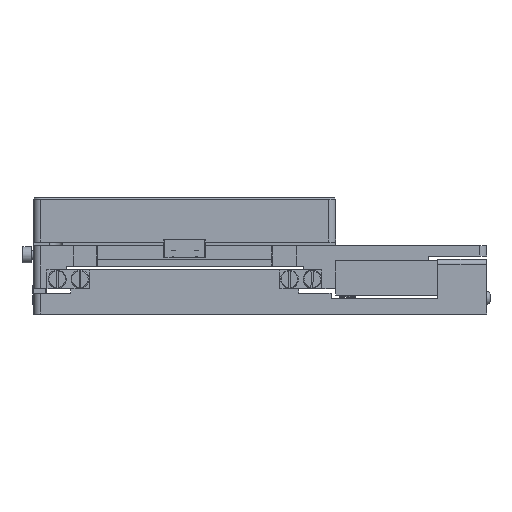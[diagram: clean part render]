
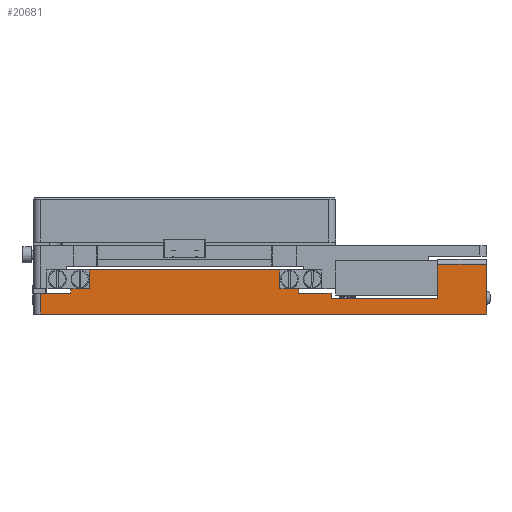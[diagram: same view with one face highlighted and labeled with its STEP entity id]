
A CAD part, left-side view. The second image highlights one B-rep face of the part: STEP entity #20681.
In plain terms, the highlighted planar face has unit normal (-1, 0, 0).
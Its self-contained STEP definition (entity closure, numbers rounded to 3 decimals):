
#344=LINE($,#28814,#2314);
#398=LINE($,#28932,#2368);
#401=LINE($,#28938,#2371);
#434=LINE($,#29010,#2404);
#784=LINE($,#30423,#2754);
#1586=LINE($,#33827,#3556);
#1598=LINE($,#33870,#3568);
#1609=LINE($,#33892,#3579);
#1614=LINE($,#33902,#3584);
#1627=LINE($,#33935,#3597);
#1630=LINE($,#33941,#3600);
#1631=LINE($,#33944,#3601);
#1635=LINE($,#33952,#3605);
#1638=LINE($,#33956,#3608);
#1639=LINE($,#33959,#3609);
#1640=LINE($,#33961,#3610);
#1641=LINE($,#33963,#3611);
#1642=LINE($,#33964,#3612);
#2314=VECTOR($,#23098,13.);
#2368=VECTOR($,#23178,8.);
#2371=VECTOR($,#23183,8.);
#2404=VECTOR($,#23234,8.);
#2754=VECTOR($,#24002,192.);
#3556=VECTOR($,#25826,82.);
#3568=VECTOR($,#25882,2.);
#3579=VECTOR($,#25901,15.);
#3584=VECTOR($,#25914,9.);
#3597=VECTOR($,#25959,8.);
#3600=VECTOR($,#25964,46.);
#3601=VECTOR($,#25967,2.);
#3605=VECTOR($,#25973,14.);
#3608=VECTOR($,#25978,2.5);
#3609=VECTOR($,#25981,3.);
#3610=VECTOR($,#25982,0.2);
#3611=VECTOR($,#25983,18.5);
#3612=VECTOR($,#25984,20.8);
#4695=PLANE($,#22053);
#6418=FACE_OUTER_BOUND($,#7704,.T.);
#7704=EDGE_LOOP($,(#17512,#17513,#17514,#17515,#17516,#17517,#17518,#17519,
#17520,#17521,#17522,#17523,#17524,#17525,#17526,#17527,#17528,#17529));
#9101=VERTEX_POINT($,#28811);
#9102=VERTEX_POINT($,#28813);
#9152=VERTEX_POINT($,#28929);
#9153=VERTEX_POINT($,#28931);
#9155=VERTEX_POINT($,#28937);
#9184=VERTEX_POINT($,#29007);
#9185=VERTEX_POINT($,#29009);
#9650=VERTEX_POINT($,#30420);
#9651=VERTEX_POINT($,#30422);
#10278=VERTEX_POINT($,#33825);
#10292=VERTEX_POINT($,#33888);
#10294=VERTEX_POINT($,#33891);
#10301=VERTEX_POINT($,#33939);
#10302=VERTEX_POINT($,#33943);
#10305=VERTEX_POINT($,#33951);
#10306=VERTEX_POINT($,#33958);
#10307=VERTEX_POINT($,#33960);
#10308=VERTEX_POINT($,#33962);
#11130=EDGE_CURVE($,#9102,#9101,#344,.T.);
#11185=EDGE_CURVE($,#9153,#9152,#398,.T.);
#11188=EDGE_CURVE($,#9155,#9153,#401,.T.);
#11221=EDGE_CURVE($,#9185,#9184,#434,.T.);
#11775=EDGE_CURVE($,#9651,#9650,#784,.T.);
#12835=EDGE_CURVE($,#10278,#9152,#1586,.T.);
#12857=EDGE_CURVE($,#9184,#9102,#1598,.T.);
#12868=EDGE_CURVE($,#10294,#10292,#1609,.T.);
#12875=EDGE_CURVE($,#9651,#9101,#1614,.T.);
#12888=EDGE_CURVE($,#10278,#9185,#1627,.T.);
#12891=EDGE_CURVE($,#10292,#10301,#1630,.T.);
#12892=EDGE_CURVE($,#10302,#9155,#1631,.T.);
#12896=EDGE_CURVE($,#10305,#10302,#1635,.T.);
#12899=EDGE_CURVE($,#10301,#10305,#1638,.T.);
#12900=EDGE_CURVE($,#9650,#10306,#1639,.T.);
#12901=EDGE_CURVE($,#10306,#10307,#1640,.T.);
#12902=EDGE_CURVE($,#10308,#10307,#1641,.T.);
#12903=EDGE_CURVE($,#10294,#10308,#1642,.T.);
#17512=ORIENTED_EDGE($,*,*,#12891,.T.);
#17513=ORIENTED_EDGE($,*,*,#12899,.T.);
#17514=ORIENTED_EDGE($,*,*,#12896,.T.);
#17515=ORIENTED_EDGE($,*,*,#12892,.T.);
#17516=ORIENTED_EDGE($,*,*,#11188,.T.);
#17517=ORIENTED_EDGE($,*,*,#11185,.T.);
#17518=ORIENTED_EDGE($,*,*,#12835,.F.);
#17519=ORIENTED_EDGE($,*,*,#12888,.T.);
#17520=ORIENTED_EDGE($,*,*,#11221,.T.);
#17521=ORIENTED_EDGE($,*,*,#12857,.T.);
#17522=ORIENTED_EDGE($,*,*,#11130,.T.);
#17523=ORIENTED_EDGE($,*,*,#12875,.F.);
#17524=ORIENTED_EDGE($,*,*,#11775,.T.);
#17525=ORIENTED_EDGE($,*,*,#12900,.T.);
#17526=ORIENTED_EDGE($,*,*,#12901,.T.);
#17527=ORIENTED_EDGE($,*,*,#12902,.F.);
#17528=ORIENTED_EDGE($,*,*,#12903,.F.);
#17529=ORIENTED_EDGE($,*,*,#12868,.T.);
#20681=ADVANCED_FACE($,(#6418),#4695,.T.);
#22053=AXIS2_PLACEMENT_3D($,#33957,#25979,#25980);
#23098=DIRECTION($,(0.,1.,0.));
#23178=DIRECTION($,(0.,0.,1.));
#23183=DIRECTION($,(0.,1.,0.));
#23234=DIRECTION($,(0.,1.,0.));
#24002=DIRECTION($,(0.,-1.,0.));
#25826=DIRECTION($,(0.,-1.,0.));
#25882=DIRECTION($,(0.,0.,-1.));
#25901=DIRECTION($,(0.,0.,-1.));
#25914=DIRECTION($,(0.,0.,1.));
#25959=DIRECTION($,(0.,0.,-1.));
#25964=DIRECTION($,(0.,1.,0.));
#25967=DIRECTION($,(0.,0.,1.));
#25973=DIRECTION($,(0.,1.,0.));
#25978=DIRECTION($,(0.,0.,1.));
#25979=DIRECTION('center_axis',(-1.,0.,0.));
#25980=DIRECTION('ref_axis',(0.,-1.,0.));
#25981=DIRECTION($,(0.,0.,1.));
#25982=DIRECTION($,(0.,1.,0.));
#25983=DIRECTION($,(0.,0.,-1.));
#25984=DIRECTION($,(0.,-1.,0.));
#28811=CARTESIAN_POINT('',(-65.,94.5,9.));
#28813=CARTESIAN_POINT('',(-65.,81.5,9.));
#28814=CARTESIAN_POINT($,(-65.,89.5,9.));
#28929=CARTESIAN_POINT('',(-65.,-8.5,19.));
#28931=CARTESIAN_POINT('',(-65.,-8.5,11.));
#28932=CARTESIAN_POINT($,(-65.,-8.5,5.5));
#28937=CARTESIAN_POINT('',(-65.,-16.5,11.));
#28938=CARTESIAN_POINT($,(-65.,40.5,11.));
#29007=CARTESIAN_POINT('',(-65.,81.5,11.));
#29009=CARTESIAN_POINT('',(-65.,73.5,11.));
#29010=CARTESIAN_POINT($,(-65.,85.5,11.));
#30420=CARTESIAN_POINT('',(-65.,-97.5,0.));
#30422=CARTESIAN_POINT('',(-65.,94.5,0.));
#30423=CARTESIAN_POINT($,(-65.,97.5,0.));
#33825=CARTESIAN_POINT('',(-65.,73.5,19.));
#33827=CARTESIAN_POINT($,(-65.,97.5,19.));
#33870=CARTESIAN_POINT($,(-65.,81.5,5.5));
#33888=CARTESIAN_POINT('',(-65.,-76.5,6.5));
#33891=CARTESIAN_POINT('',(-65.,-76.5,21.5));
#33892=CARTESIAN_POINT($,(-65.,-76.5,9.5));
#33902=CARTESIAN_POINT($,(-65.,94.5,0.));
#33935=CARTESIAN_POINT($,(-65.,73.5,9.5));
#33939=CARTESIAN_POINT('',(-65.,-30.5,6.5));
#33941=CARTESIAN_POINT($,(-65.,10.5,6.5));
#33943=CARTESIAN_POINT('',(-65.,-16.5,9.));
#33944=CARTESIAN_POINT($,(-65.,-16.5,4.5));
#33951=CARTESIAN_POINT('',(-65.,-30.5,9.));
#33952=CARTESIAN_POINT($,(-65.,33.5,9.));
#33956=CARTESIAN_POINT($,(-65.,-30.5,3.25));
#33957=CARTESIAN_POINT('Origin',(-65.,97.5,0.));
#33958=CARTESIAN_POINT('',(-65.,-97.5,3.));
#33959=CARTESIAN_POINT($,(-65.,-97.5,0.));
#33960=CARTESIAN_POINT('',(-65.,-97.3,3.));
#33961=CARTESIAN_POINT($,(-65.,0.,3.));
#33962=CARTESIAN_POINT('',(-65.,-97.3,21.5));
#33963=CARTESIAN_POINT($,(-65.,-97.3,23.5));
#33964=CARTESIAN_POINT($,(-65.,-96.8,21.5));
